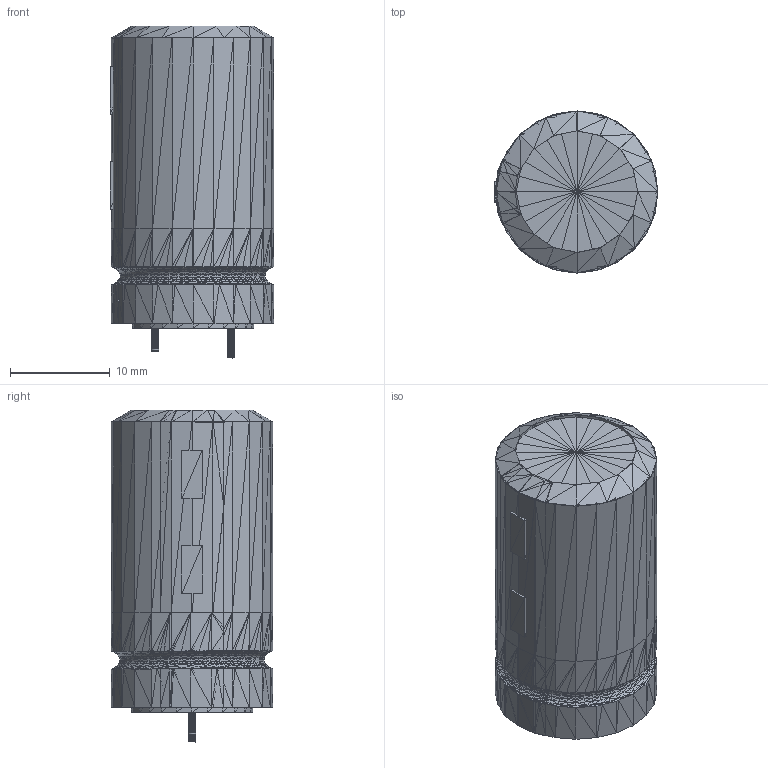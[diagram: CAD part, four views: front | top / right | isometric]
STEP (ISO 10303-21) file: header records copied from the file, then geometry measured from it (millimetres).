
FILE_DESCRIPTION(('HOOPS Exchange Step'),'2;1');
FILE_NAME('***.stp');
FILE_SCHEMA( ('AP242_MANAGED_MODEL_BASED_3D_ENGINEERING_MIM_LF {1 0 10303 442 1 1 4 }') );
Length unit declared in the file: inch
Products named in the file (12): CAPOLV630X1180MIL_2; CAPOLV630X1180MIL_3; CAPOLV630X1180MIL_4; CAPOLV630X1180MIL_5; CAPOLV630X1180MIL_6; CAPOLV630X1180MIL_7; CAPOLV630X1180MIL_8; CAPOLV630X1180MIL_9; CAPOLV630X1180MIL_10; CAPOLV630X1180MIL_11; CAPOLV630X1180MIL_12; CAPOLV630X1180MIL
Assembly tree (11 placements, depth 2):
  CAPOLV630X1180MIL
    CAPOLV630X1180MIL_2
    CAPOLV630X1180MIL_3
    CAPOLV630X1180MIL_4
    CAPOLV630X1180MIL_5
    CAPOLV630X1180MIL_6
    CAPOLV630X1180MIL_7
    CAPOLV630X1180MIL_8
    CAPOLV630X1180MIL_9
    CAPOLV630X1180MIL_10
    CAPOLV630X1180MIL_11
    CAPOLV630X1180MIL_12
Bounding box: 16.39 x 16.2 x 33.23 mm (x, y, z)
Surface area: 7239.4 mm2
Topology: 7 solids, 4435 shells, 4442 faces, 4060 edges, 2023 vertices
Faces by surface type: plane 4442
Entity records: 74922 total; most frequent: ORIENTED_EDGE 13374, DIRECTION 13034, CARTESIAN_POINT 10577, AXIS2_PLACEMENT_3D 4482, PLANE 4458, EDGE_LOOP 4458, FACE_BOUND 4458, ADVANCED_FACE 4458
